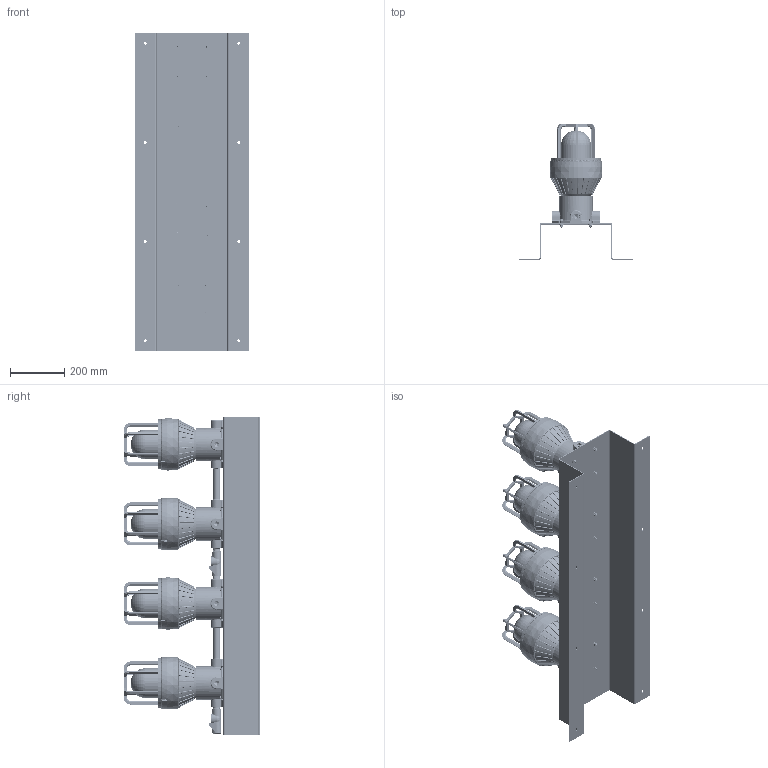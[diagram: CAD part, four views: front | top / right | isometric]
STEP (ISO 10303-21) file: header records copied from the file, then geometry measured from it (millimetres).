
FILE_DESCRIPTION (( 'STEP AP214' ), '1' );
FILE_NAME ('EPL-TL-4X10W-C.STEP', '2016-12-07T15:24:38', ( '' ), ( '' ), 'SwSTEP 2.0', 'SolidWorks 2016', '' );
FILE_SCHEMA (( 'AUTOMOTIVE_DESIGN' ));
Length unit declared in the file: inch
Products named in the file (17): hex bolt_ai_HBOLT 0.2500-20x1x0.75-N; hex nut_ai_HNUT 0.2500-20-D-N; flat washer type b regular_ai_Regular FW 0.25; 0.75 - 6in Long - Nipple_4830K198; 0.75 Nipple_4830K191; EYS; 0.25in Plug - Square Drive_1162T45; EYS - .5 ends .75 side .25 angle; 0.75in Plug - Square Drive_1162T48; EPSL-80-141-CLG-WC; Small Wire Cage; EPSL-80-141_No Pendant; Lens A; Body; EPSL-80-141 Ceiling Mount; EPL-TL Tophat_EPL-TL-4X10W-C; EPL-TL-4X10W-C
Assembly tree (93 placements, depth 4):
  EPL-TL-4X10W-C
    EPL-TL Tophat_EPL-TL-4X10W-C
    EPSL-80-141-CLG-WC  x4
      EPSL-80-141 Ceiling Mount
      EPSL-80-141_No Pendant
        Body
        Lens A
      Small Wire Cage
    0.75in Plug - Square Drive_1162T48  x9
    EYS  x2
      EYS - .5 ends .75 side .25 angle
      0.75in Plug - Square Drive_1162T48
      0.25in Plug - Square Drive_1162T45
    0.75 Nipple_4830K191  x3
    0.75 - 6in Long - Nipple_4830K198  x2
    flat washer type b regular_ai_Regular FW 0.25  x32
    hex nut_ai_HNUT 0.2500-20-D-N  x16
    hex bolt_ai_HBOLT 0.2500-20x1x0.75-N  x16
Bounding box: 419.1 x 497.84 x 1168.4 mm (x, y, z)
Volume: 21160568.5 mm3; surface area: 4889954.4 mm2
Topology: 121 solids, 121 shells, 9943 faces, 26195 edges, 16405 vertices
Faces by surface type: plane 4126, cylinder 3268, cone 1414, bspline 851, sphere 144, torus 140
Entity records: 228315 total; most frequent: CARTESIAN_POINT 166857, ORIENTED_EDGE 13066, DIRECTION 10987, EDGE_CURVE 6533, VERTEX_POINT 4099, AXIS2_PLACEMENT_3D 3834, VECTOR 3319, LINE 3319
